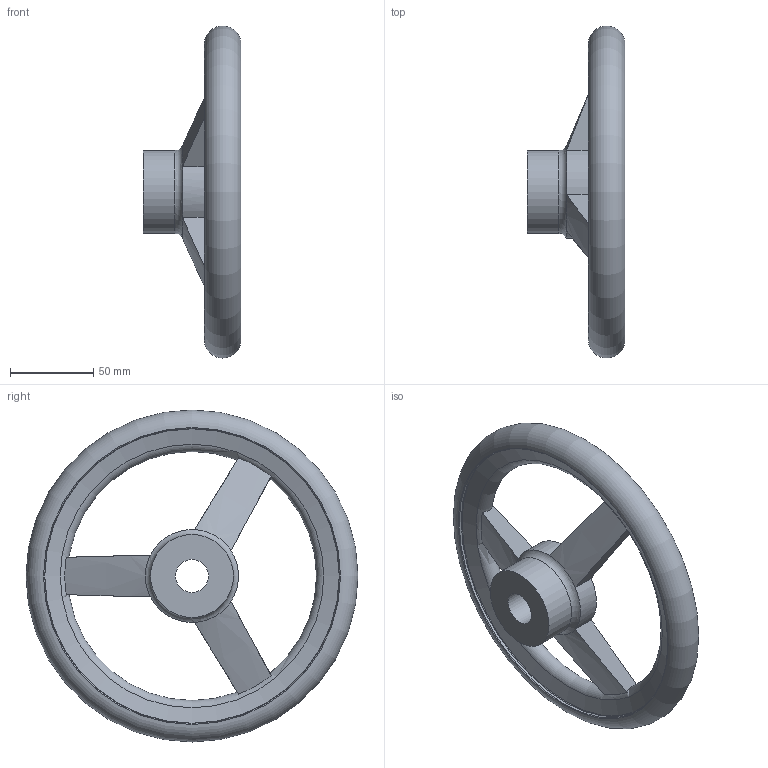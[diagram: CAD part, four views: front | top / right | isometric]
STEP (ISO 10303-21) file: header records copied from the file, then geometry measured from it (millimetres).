
FILE_DESCRIPTION( ( 'STEP AP203' ), '1' );
FILE_NAME( 'C:/Temp/Ganter_Step_05_03_2020/data/1_3/gn_950_1/gn_950_1_b/gn_950_1_b_a/Handwheel GN 950.1-GG-200-B20-A.stp', '2020-03-05T10:32:32', ( 'License CC BY-ND 4.0' ), ( 'CADENAS' ), ' ', 'PARTsolutions', ' ' );
FILE_SCHEMA( ( 'CONFIG_CONTROL_DESIGN' ) );
Length unit declared in the file: millimetre
Products named in the file (1): _Handwheel GN 950.1-GG-200-B20-A
Bounding box: 58.99 x 200 x 200 mm (x, y, z)
Volume: 312845.2 mm3; surface area: 63333.1 mm2
Topology: 1 solids, 1 shells, 33 faces, 89 edges, 55 vertices
Faces by surface type: torus 11, plane 8, cylinder 8, cone 6
Full cylindrical faces by diameter (mm): 20 x1, 50 x2, 178 x2
Entity records: 1216 total; most frequent: CARTESIAN_POINT 435, DIRECTION 144, ORIENTED_EDGE 142, EDGE_CURVE 71, AXIS2_PLACEMENT_3D 69, EDGE_LOOP 54, VERTEX_POINT 54, FACE_OUTER_BOUND 46
